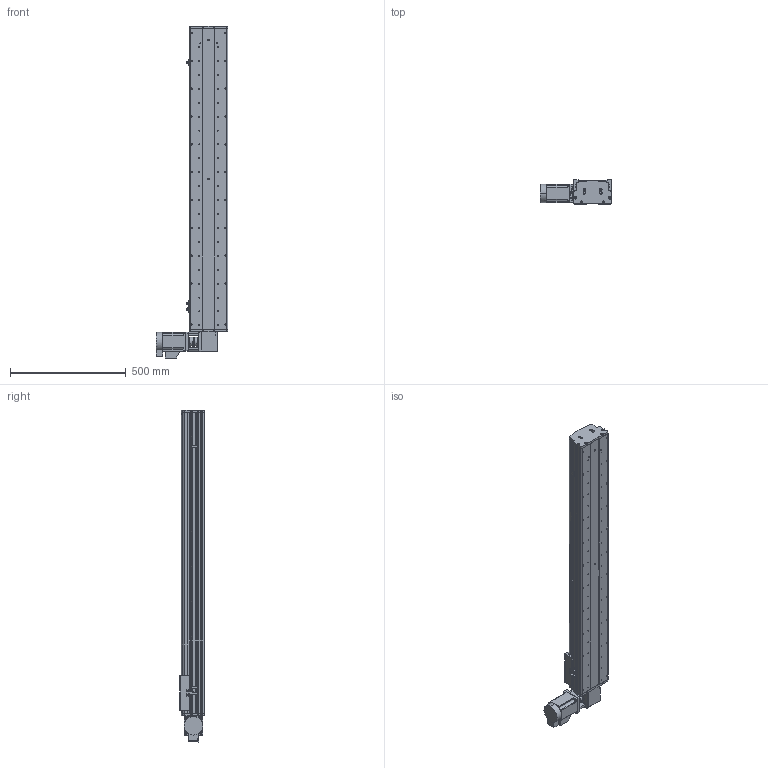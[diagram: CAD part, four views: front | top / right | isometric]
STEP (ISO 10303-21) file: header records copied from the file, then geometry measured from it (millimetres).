
FILE_DESCRIPTION (( 'STEP AP214' ), '1' );
FILE_NAME ('KSD165B-S1050-MRT-CM.STEP', '2017-10-17T01:33:41', ( '微软用户' ), ( '微软中国' ), 'SwSTEP 2.0', 'SolidWorks 2014', '' );
FILE_SCHEMA (( 'AUTOMOTIVE_DESIGN' ));
Length unit declared in the file: millimetre
Products named in the file (16): 165宽安装板同步带带电机座750W; C39ㄜ1419WP; U倰嫖萇假蚾璃; U倰嫖萇EEㄜSX672; 覜茼え68遵圉猾敕; KSD165模组-同步带-防撞垫2; KSD165模组同步带-防撞垫1; KSD165耀郪-ヶ傷啣1-肮祭湍; KSD165模组-后端板1-同步带; 130宽马达安装板1-带电机座750W（1）; KSD165模组-同步带滑动座-最新版; KSD165B-S1050-MRT-CM; 165宽马达安装板同步带左-改; KSD165模组-同步带防尘盖1-1050行程; KSD165模组同步带底板-1050行程; 拸秶雄ん750W侜督萇儂
Assembly tree (19 placements, depth 2):
  KSD165B-S1050-MRT-CM
    KSD165模组-同步带滑动座-最新版
    130宽马达安装板1-带电机座750W（1）
    KSD165模组-后端板1-同步带
    KSD165耀郪-ヶ傷啣1-肮祭湍
    KSD165模组同步带-防撞垫1
    KSD165模组-同步带-防撞垫2
    覜茼え68遵圉猾敕
    U倰嫖萇EEㄜSX672  x3
    U倰嫖萇假蚾璃  x3
    C39ㄜ1419WP
    165宽安装板同步带带电机座750W
    拸秶雄ん750W侜督萇儂
    KSD165模组同步带底板-1050行程
    KSD165模组-同步带防尘盖1-1050行程
    165宽马达安装板同步带左-改
Bounding box: 307.5 x 104 x 1431.06 mm (x, y, z)
Volume: 8112987.7 mm3; surface area: 1834359.3 mm2
Topology: 20 solids, 21 shells, 1522 faces, 4236 edges, 2745 vertices
Faces by surface type: cylinder 845, plane 583, cone 94
Entity records: 48707 total; most frequent: CARTESIAN_POINT 10183, DIRECTION 7562, ORIENTED_EDGE 7124, EDGE_CURVE 3562, AXIS2_PLACEMENT_3D 2884, VERTEX_POINT 2337, VECTOR 1794, LINE 1794
